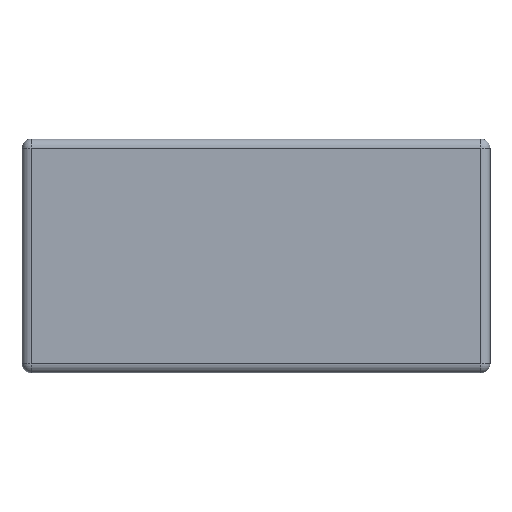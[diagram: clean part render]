
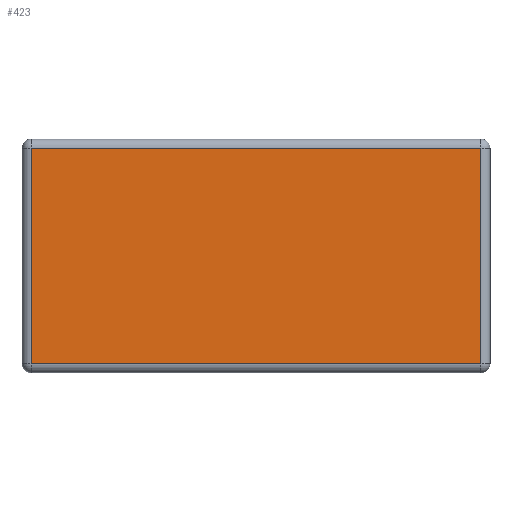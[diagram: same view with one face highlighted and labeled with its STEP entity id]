
A CAD part, front view. The second image highlights one B-rep face of the part: STEP entity #423.
In plain terms, the highlighted planar face has unit normal (0, -1, 0).
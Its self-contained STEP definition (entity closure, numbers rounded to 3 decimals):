
#58=LINE('',#748,#78);
#59=LINE('',#751,#79);
#60=LINE('',#753,#80);
#61=LINE('',#755,#81);
#78=VECTOR('',#589,1000.);
#79=VECTOR('',#590,1000.);
#80=VECTOR('',#591,1000.);
#81=VECTOR('',#592,1000.);
#116=ORIENTED_EDGE('',*,*,#216,.T.);
#117=ORIENTED_EDGE('',*,*,#217,.T.);
#118=ORIENTED_EDGE('',*,*,#218,.T.);
#119=ORIENTED_EDGE('',*,*,#219,.T.);
#216=EDGE_CURVE('',#264,#265,#58,.F.);
#217=EDGE_CURVE('',#265,#266,#59,.F.);
#218=EDGE_CURVE('',#266,#267,#60,.F.);
#219=EDGE_CURVE('',#267,#264,#61,.F.);
#264=VERTEX_POINT('',#749);
#265=VERTEX_POINT('',#750);
#266=VERTEX_POINT('',#752);
#267=VERTEX_POINT('',#754);
#321=EDGE_LOOP('',(#116,#117,#118,#119));
#371=FACE_BOUND('',#321,.T.);
#411=PLANE('',#484);
#423=ADVANCED_FACE('',(#371),#411,.F.);
#484=AXIS2_PLACEMENT_3D('',#747,#587,#588);
#587=DIRECTION('',(0.,1.,0.));
#588=DIRECTION('',(0.,0.,1.));
#589=DIRECTION('',(0.,0.,1.));
#590=DIRECTION('',(-1.,0.,0.));
#591=DIRECTION('',(0.,0.,-1.));
#592=DIRECTION('',(1.,0.,0.));
#747=CARTESIAN_POINT('',(-25.415,0.,4.78));
#748=CARTESIAN_POINT('',(-24.415,0.,4.78));
#749=CARTESIAN_POINT('',(-24.415,0.,3.78));
#750=CARTESIAN_POINT('',(-24.415,0.,-19.62));
#751=CARTESIAN_POINT('',(-25.415,0.,-19.62));
#752=CARTESIAN_POINT('',(24.385,0.,-19.62));
#753=CARTESIAN_POINT('',(24.385,0.,4.78));
#754=CARTESIAN_POINT('',(24.385,0.,3.78));
#755=CARTESIAN_POINT('',(-25.415,0.,3.78));
